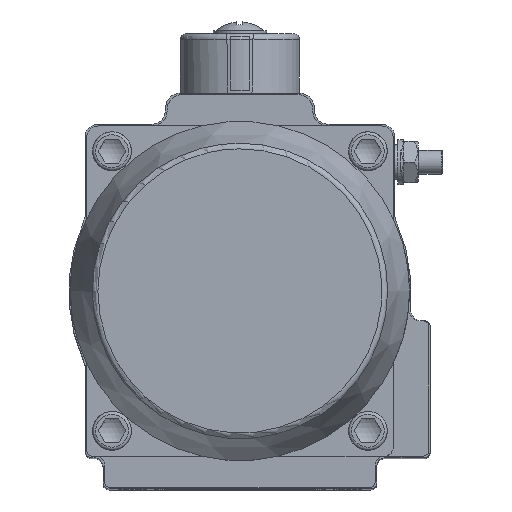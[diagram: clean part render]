
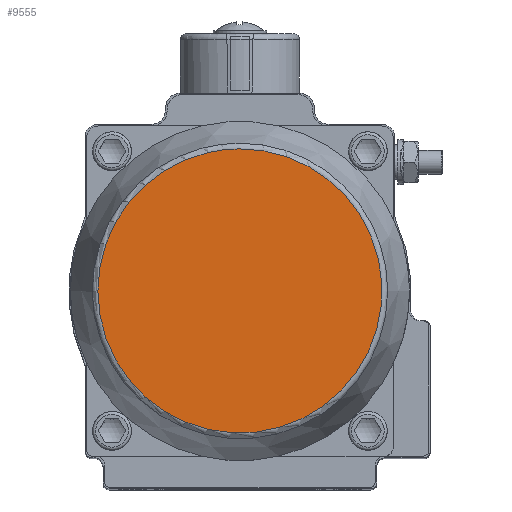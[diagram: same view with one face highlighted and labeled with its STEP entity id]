
A CAD part, top view. The second image highlights one B-rep face of the part: STEP entity #9555.
In plain terms, the highlighted planar face has unit normal (0, 0, 1).
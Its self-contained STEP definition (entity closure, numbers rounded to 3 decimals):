
#9555=ADVANCED_FACE('',(#18790),#18792,.T.);
#18790=FACE_BOUND('',#18791,.T.);
#18791=EDGE_LOOP('',(#24315));
#18792=PLANE('',#18793);
#18793=AXIS2_PLACEMENT_3D('',#18794,#18795,#18796);
#18794=CARTESIAN_POINT('',(0.,0.,136.));
#18795=DIRECTION('',(0.,0.,1.));
#18796=DIRECTION('',(1.,0.,0.));
#24315=ORIENTED_EDGE('',*,*,#26783,.F.);
#26783=EDGE_CURVE('',#30371,#30371,#30372,.T.);
#30371=VERTEX_POINT('',#56104);
#30372=B_SPLINE_CURVE_WITH_KNOTS('',3,
(#56105,#56106,#56107,#56108,#56109,#56110,#56111,#56112,#56113,#56114,#56115,#56116,
#56117,#56118,#56119,#56120,#56121,#56122,#56123,#56124,#56125,#56126,#56127,#56128,
#56129,#56130,#56131,#56132,#56133,#56134,#56135,#56136,#56137,#56138,#56139,#56140,
#56141,#56142,#56143,#56144,#56145,#56146,#56147,#56148,#56149,#56150,#56151,#56152,
#56153,#56154,#56155,#56156,#56157,#56158,#56159,#56160,#56161,#56162,#56163,#56164,
#56165,#56166,#56167,#56168,#56169,#56170,#56171,#56172,#56173,#56174,#56175,#56176,
#56177,#56178,#56179,#56180,#56181,#56182,#56183,#56184,#56185,#56186,#56187,#56188,
#56189,#56190,#56191,#56192,#56193,#56194,#56195,#56196,#56197,#56198,#56199,#56200,
#56201,#56202,#56203,#56204,#56205,#56206,#56207),
.UNSPECIFIED.,.T.,.F.,
(4,1,1,1,1,1,1,1,1,1,1,1,1,1,1,1,1,1,1,1,1,1,1,1,1,1,1,1,1,1,1,1,1,1,1,1,1,1,1,1,
1,1,1,1,1,1,1,1,1,1,1,1,1,1,1,1,1,1,1,1,1,1,1,1,1,1,1,1,1,1,1,1,1,1,1,1,1,1,1,1,
1,1,1,1,1,1,1,1,1,1,1,1,1,1,1,1,1,1,1,1,4),
(0.,0.01,0.02,0.03,0.04,0.05,
0.06,0.07,0.08,0.09,0.1,
0.11,0.12,0.13,0.14,0.15,
0.16,0.17,0.18,0.19,0.2,
0.21,0.22,0.23,0.24,0.25,
0.26,0.27,0.28,0.29,0.3,
0.31,0.32,0.33,0.34,0.35,
0.36,0.37,0.38,0.39,0.4,
0.41,0.42,0.43,0.44,0.45,
0.46,0.47,0.48,0.49,0.501,
0.511,0.521,0.531,0.541,0.551,
0.561,0.571,0.581,0.591,0.601,
0.611,0.621,0.631,0.641,0.651,
0.661,0.671,0.681,0.691,0.701,
0.711,0.721,0.731,0.741,0.751,
0.761,0.771,0.781,0.791,0.801,
0.811,0.821,0.831,0.841,0.851,
0.861,0.871,0.881,0.891,0.901,
0.911,0.921,0.931,0.941,0.951,
0.961,0.971,0.981,0.991,1.),
.UNSPECIFIED.);
#56104=CARTESIAN_POINT('',(-0.261,47.748,136.));
#56105=CARTESIAN_POINT('',(-0.261,47.748,136.));
#56106=CARTESIAN_POINT('',(0.739,47.754,136.));
#56107=CARTESIAN_POINT('',(2.739,47.702,136.));
#56108=CARTESIAN_POINT('',(5.729,47.436,136.));
#56109=CARTESIAN_POINT('',(8.697,46.982,136.));
#56110=CARTESIAN_POINT('',(11.63,46.343,136.));
#56111=CARTESIAN_POINT('',(14.517,45.522,136.));
#56112=CARTESIAN_POINT('',(17.347,44.52,136.));
#56113=CARTESIAN_POINT('',(20.108,43.343,136.));
#56114=CARTESIAN_POINT('',(22.79,41.995,136.));
#56115=CARTESIAN_POINT('',(25.383,40.481,136.));
#56116=CARTESIAN_POINT('',(27.874,38.807,136.));
#56117=CARTESIAN_POINT('',(30.256,36.98,136.));
#56118=CARTESIAN_POINT('',(32.519,35.007,136.));
#56119=CARTESIAN_POINT('',(34.653,32.896,136.));
#56120=CARTESIAN_POINT('',(36.65,30.655,136.));
#56121=CARTESIAN_POINT('',(38.503,28.293,136.));
#56122=CARTESIAN_POINT('',(40.204,25.819,136.));
#56123=CARTESIAN_POINT('',(41.746,23.244,136.));
#56124=CARTESIAN_POINT('',(43.123,20.576,136.));
#56125=CARTESIAN_POINT('',(44.33,17.828,136.));
#56126=CARTESIAN_POINT('',(45.362,15.009,136.));
#56127=CARTESIAN_POINT('',(46.215,12.131,136.));
#56128=CARTESIAN_POINT('',(46.885,9.205,136.));
#56129=CARTESIAN_POINT('',(47.371,6.242,136.));
#56130=CARTESIAN_POINT('',(47.669,3.255,136.));
#56131=CARTESIAN_POINT('',(47.78,0.256,136.));
#56132=CARTESIAN_POINT('',(47.701,-2.745,136.));
#56133=CARTESIAN_POINT('',(47.435,-5.735,136.));
#56134=CARTESIAN_POINT('',(46.981,-8.703,136.));
#56135=CARTESIAN_POINT('',(46.342,-11.636,136.));
#56136=CARTESIAN_POINT('',(45.52,-14.523,136.));
#56137=CARTESIAN_POINT('',(44.518,-17.353,136.));
#56138=CARTESIAN_POINT('',(43.34,-20.114,136.));
#56139=CARTESIAN_POINT('',(41.992,-22.796,136.));
#56140=CARTESIAN_POINT('',(40.477,-25.388,136.));
#56141=CARTESIAN_POINT('',(38.803,-27.879,136.));
#56142=CARTESIAN_POINT('',(36.976,-30.261,136.));
#56143=CARTESIAN_POINT('',(35.003,-32.523,136.));
#56144=CARTESIAN_POINT('',(32.891,-34.657,136.));
#56145=CARTESIAN_POINT('',(30.65,-36.654,136.));
#56146=CARTESIAN_POINT('',(28.288,-38.506,136.));
#56147=CARTESIAN_POINT('',(25.814,-40.207,136.));
#56148=CARTESIAN_POINT('',(23.238,-41.748,136.));
#56149=CARTESIAN_POINT('',(20.571,-43.125,136.));
#56150=CARTESIAN_POINT('',(17.822,-44.332,136.));
#56151=CARTESIAN_POINT('',(15.003,-45.364,136.));
#56152=CARTESIAN_POINT('',(12.125,-46.216,136.));
#56153=CARTESIAN_POINT('',(9.199,-46.886,136.));
#56154=CARTESIAN_POINT('',(6.236,-47.372,136.));
#56155=CARTESIAN_POINT('',(3.174,-47.677,136.));
#56156=CARTESIAN_POINT('',(0.097,-47.783,136.));
#56157=CARTESIAN_POINT('',(-2.979,-47.687,136.));
#56158=CARTESIAN_POINT('',(-5.968,-47.406,136.));
#56159=CARTESIAN_POINT('',(-8.933,-46.938,136.));
#56160=CARTESIAN_POINT('',(-11.863,-46.284,136.));
#56161=CARTESIAN_POINT('',(-14.746,-45.448,136.));
#56162=CARTESIAN_POINT('',(-17.571,-44.432,136.));
#56163=CARTESIAN_POINT('',(-20.326,-43.241,136.));
#56164=CARTESIAN_POINT('',(-23.002,-41.879,136.));
#56165=CARTESIAN_POINT('',(-25.586,-40.352,136.));
#56166=CARTESIAN_POINT('',(-28.069,-38.666,136.));
#56167=CARTESIAN_POINT('',(-30.442,-36.827,136.));
#56168=CARTESIAN_POINT('',(-32.695,-34.843,136.));
#56169=CARTESIAN_POINT('',(-34.818,-32.721,136.));
#56170=CARTESIAN_POINT('',(-36.804,-30.47,136.));
#56171=CARTESIAN_POINT('',(-38.645,-28.099,136.));
#56172=CARTESIAN_POINT('',(-40.333,-25.616,136.));
#56173=CARTESIAN_POINT('',(-41.862,-23.033,136.));
#56174=CARTESIAN_POINT('',(-43.226,-20.359,136.));
#56175=CARTESIAN_POINT('',(-44.419,-17.604,136.));
#56176=CARTESIAN_POINT('',(-45.437,-14.78,136.));
#56177=CARTESIAN_POINT('',(-46.275,-11.898,136.));
#56178=CARTESIAN_POINT('',(-46.931,-8.969,136.));
#56179=CARTESIAN_POINT('',(-47.402,-6.004,136.));
#56180=CARTESIAN_POINT('',(-47.685,-3.015,136.));
#56181=CARTESIAN_POINT('',(-47.78,-0.015,136.));
#56182=CARTESIAN_POINT('',(-47.687,2.985,136.));
#56183=CARTESIAN_POINT('',(-47.405,5.974,136.));
#56184=CARTESIAN_POINT('',(-46.937,8.939,136.));
#56185=CARTESIAN_POINT('',(-46.283,11.869,136.));
#56186=CARTESIAN_POINT('',(-45.446,14.752,136.));
#56187=CARTESIAN_POINT('',(-44.43,17.576,136.));
#56188=CARTESIAN_POINT('',(-43.239,20.332,136.));
#56189=CARTESIAN_POINT('',(-41.877,23.007,136.));
#56190=CARTESIAN_POINT('',(-40.349,25.591,136.));
#56191=CARTESIAN_POINT('',(-38.663,28.074,136.));
#56192=CARTESIAN_POINT('',(-36.823,30.447,136.));
#56193=CARTESIAN_POINT('',(-34.839,32.699,136.));
#56194=CARTESIAN_POINT('',(-32.717,34.822,136.));
#56195=CARTESIAN_POINT('',(-30.465,36.808,136.));
#56196=CARTESIAN_POINT('',(-28.094,38.648,136.));
#56197=CARTESIAN_POINT('',(-25.611,40.336,136.));
#56198=CARTESIAN_POINT('',(-23.028,41.865,136.));
#56199=CARTESIAN_POINT('',(-20.354,43.228,136.));
#56200=CARTESIAN_POINT('',(-17.599,44.421,136.));
#56201=CARTESIAN_POINT('',(-14.775,45.439,136.));
#56202=CARTESIAN_POINT('',(-11.892,46.277,136.));
#56203=CARTESIAN_POINT('',(-8.963,46.932,136.));
#56204=CARTESIAN_POINT('',(-5.998,47.402,136.));
#56205=CARTESIAN_POINT('',(-3.093,47.677,136.));
#56206=CARTESIAN_POINT('',(-1.177,47.743,136.));
#56207=CARTESIAN_POINT('',(-0.261,47.748,136.));
